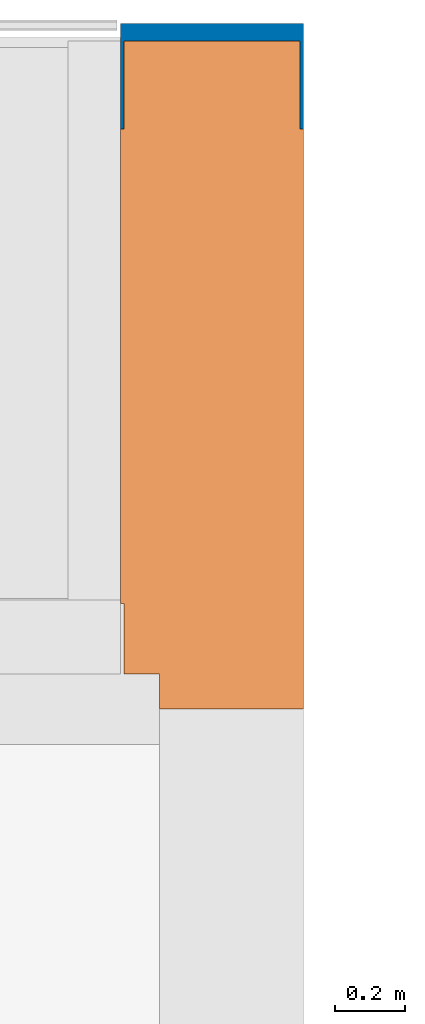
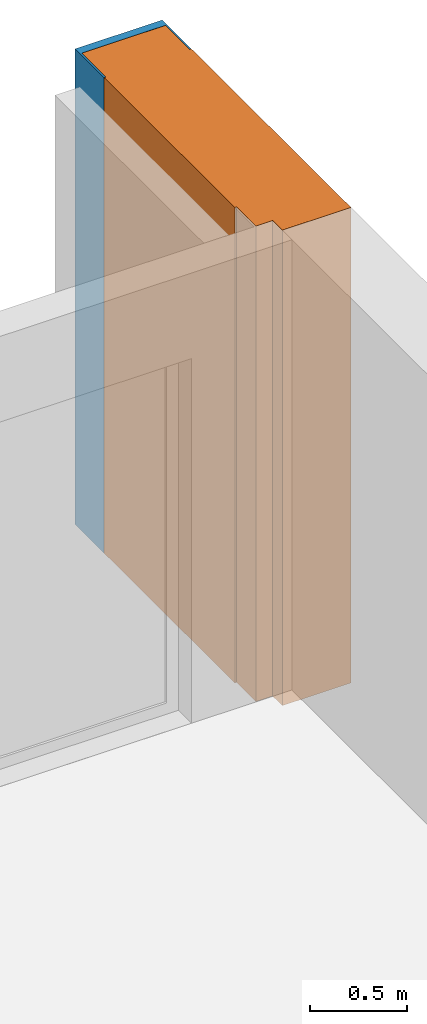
# One storey, part 50 of 64: 1 proxy, 1 wall, 1 opening.
"""IFC2X3 building model written with IfcOpenShell, lengths in millimetres."""

from ifc_helpers import new_model, entity, si_unit, converted_unit, derived_unit, money_unit, direction, frame, origin_with_axes, origin_2d_with_axis, place, context, subcontext, project, spatial, rectangle, extrude, faceted_brep, source, transform, mapped, material, material_list, type_object, element, fill, save


model = new_model("IFC2X3")

# Units and contexts
model_context = context("Model", 3, precision=0.01, world=origin_with_axes(), true_north=direction((0.34421633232, 0.938890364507)))
body_context = subcontext(model_context, "Body", "Model", "MODEL_VIEW")
ifc_project = project(units=[si_unit("LENGTHUNIT", "METRE", prefix="MILLI"), si_unit("AREAUNIT", "SQUARE_METRE"), si_unit("VOLUMEUNIT", "CUBIC_METRE"), converted_unit("PLANEANGLEUNIT", "DEGREE", entity("IfcPlaneAngleMeasure", 0.0174532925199), si_unit("PLANEANGLEUNIT", "RADIAN"), dimensions=[0, 0, 0, 0, 0, 0, 0]), si_unit("SOLIDANGLEUNIT", "STERADIAN"), money_unit("USD"), converted_unit("TIMEUNIT", "Year", entity("IfcTimeMeasure", 31556926.0), si_unit("TIMEUNIT", "SECOND"), dimensions=[0, 0, 1, 0, 0, 0, 0]), si_unit("MASSUNIT", "GRAM", prefix="KILO"), si_unit("THERMODYNAMICTEMPERATUREUNIT", "DEGREE_CELSIUS"), si_unit("LUMINOUSINTENSITYUNIT", "LUMEN"), si_unit("ENERGYUNIT", "JOULE", prefix="MEGA"), derived_unit("THERMALCONDUCTANCEUNIT", [(si_unit("POWERUNIT", "WATT"), 1), (si_unit("LENGTHUNIT", "METRE"), -1), (si_unit("THERMODYNAMICTEMPERATUREUNIT", "KELVIN"), -1)]), derived_unit("SPECIFICHEATCAPACITYUNIT", [(si_unit("ENERGYUNIT", "JOULE"), 1), (si_unit("MASSUNIT", "GRAM", prefix="KILO"), -1), (si_unit("THERMODYNAMICTEMPERATUREUNIT", "KELVIN"), -1)]), derived_unit("MASSDENSITYUNIT", [(si_unit("MASSUNIT", "GRAM", prefix="KILO"), 1), (si_unit("VOLUMEUNIT", "CUBIC_METRE"), -1)])], contexts=[model_context])

# Site, building, storey
site_placement = place(None, origin_with_axes())
site = spatial("IfcSite", under=ifc_project, at=site_placement, Name="USTRONIE MORSKIE", CompositionType="ELEMENT")
building_placement = place(site_placement, origin_with_axes())
building = spatial("IfcBuilding", under=site, at=building_placement, Name="Budynek", CompositionType="ELEMENT")
storey_placement = place(building_placement, frame((0.0, 0.0, 7000.0), z_axis=(0.0, 0.0, 1.0), x_axis=(1.0, 0.0, 0.0)))
storey = spatial("IfcBuildingStorey", under=building, at=storey_placement, Name="PIĘTRO 2", CompositionType="ELEMENT", Elevation=7000.0)

# Proxy, opening, wall
ifc_material_1 = material(Name="Tynk zewnętrzny")
ifc_material_2 = material(Name="Wełna ELEW")
ifc_material_3 = material(Name="Beton konstrukcyjny B25")
ifc_material_list = material_list([ifc_material_1, ifc_material_2, ifc_material_3, ifc_material_2, ifc_material_1])
building_element_proxy_type = type_object("IfcBuildingElementProxyType", Name="BALKON bok 01 520", PredefinedType="NOTDEFINED")
proxy_placement = place(storey_placement, frame((425567.920919, 749451.184717, -160.000002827), z_axis=(0.0, 0.0, 1.0), x_axis=(0.0, 1.0, 0.0)))
proxy = element("IfcBuildingElementProxy", 1, at=proxy_placement, inside=storey, type_object=building_element_proxy_type, material=ifc_material_list, Name="Œciana-006", context=body_context, shape_type="Brep", body=[
    faceted_brep([(300.00017689, 210.0, 3000.00000283), (300.000168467, 200.0, 3000.00000283), (1950.01413776, 200.0, 3000.00000283), (1950.01413776, 210.0, 3000.00000283), (300.000168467, 200.0, 0.0), (300.00017689, 210.0, 1.64313007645e-09), (1950.01413776, 200.0, 0.0), (1950.01413776, 210.0, 0.0)], [[[0, 1, 2, 3]], [[4, 1, 0, 5]], [[1, 4, 6, 2]], [[2, 6, 7, 3]], [[5, 0, 3, 7]], [[4, 5, 7, 6]]]),
    faceted_brep([(100.000168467, 200.0, 3000.00000283), (100.000084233, 100.0, 3000.00000283), (1950.01413776, 100.0, 3000.00000283), (1950.01413776, 200.0, 3000.00000283), (100.000084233, 100.0, 2.68217181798e-06), (100.000168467, 200.0, 2.68292144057e-06), (1950.01413776, 100.0, 0.0), (1950.01413776, 200.0, 0.0)], [[[0, 1, 2, 3]], [[4, 1, 0, 5]], [[1, 4, 6, 2]], [[2, 6, 7, 3]], [[5, 0, 3, 7]], [[4, 5, 7, 6]]]),
    faceted_brep([(0.0, -100.0, 0.0), (0.0, 100.0, 0.0), (1950.01413776, 100.0, 0.0), (1950.01413776, -100.0, 0.0), (0.0, -100.0, 3000.00000283), (0.0, 100.0, 3000.00000283), (1950.01413776, 100.0, 3000.00000283), (1950.01413776, -100.0, 3000.00000283)], [[[0, 1, 2, 3]], [[4, 5, 1, 0]], [[1, 5, 6, 2]], [[7, 3, 2, 6]], [[4, 0, 3, 7]], [[5, 4, 7, 6]]]),
    faceted_brep([(0.0, -100.0, 0.0), (1950.01413776, -100.0, 0.0), (1950.01413776, -300.0, 0.0), (0.0, -300.0, 0.0), (0.0, -100.0, 3000.00000283), (1950.01413776, -100.0, 3000.00000283), (1950.01413776, -300.0, 3000.00000283), (0.0, -300.0, 3000.00000283)], [[[0, 1, 2, 3]], [[4, 5, 1, 0]], [[2, 1, 5, 6]], [[3, 2, 6, 7]], [[4, 0, 3, 7]], [[7, 6, 5, 4]]]),
    faceted_brep([(0.0, -300.0, 0.0), (1950.01413776, -300.0, 0.0), (1950.01413776, -310.0, 0.0), (0.0, -310.0, 0.0), (0.0, -300.0, 3000.00000283), (1950.01413776, -300.0, 3000.00000283), (1950.01413776, -310.0, 3000.00000283), (0.0, -310.0, 3000.00000283)], [[[0, 1, 2, 3]], [[4, 5, 1, 0]], [[2, 1, 5, 6]], [[3, 2, 6, 7]], [[4, 0, 3, 7]], [[7, 6, 5, 4]]]),
])
opening_placement = place(proxy_placement, frame((1950.01413776, 0.0, 0.0), z_axis=(0.0, 0.0, 1.0), x_axis=(1.0, 0.0, 0.0)))
opening = element("IfcOpeningElement", 2, at=opening_placement, cuts=proxy, Name="ZS1", context=body_context, shape_type="SweptSolid", body=[
    extrude(rectangle(XDim=9.99999999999, YDim=50.0000000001, at=origin_2d_with_axis()), frame((-25.0000000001, 205.0, 0.0), z_axis=(0.0, 0.0, 1.0), x_axis=(0.0, -1.0, 0.0)), (0.0, 0.0, 1.0), 3000.00000283),
    extrude(rectangle(XDim=9.99999999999, YDim=250.0, at=origin_2d_with_axis()), frame((-175.0, 205.0, 0.0), z_axis=(0.0, 0.0, 1.0), x_axis=(0.0, -1.0, 0.0)), (0.0, 0.0, 1.0), 3000.00000283),
    extrude(rectangle(XDim=9.99999999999, YDim=50.0, at=origin_2d_with_axis()), frame((-25.0, -305.0, 0.0), z_axis=(0.0, 0.0, 1.0), x_axis=(0.0, -1.0, 0.0)), (0.0, 0.0, 1.0), 3000.00000283),
    extrude(rectangle(XDim=9.99999999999, YDim=250.0, at=origin_2d_with_axis()), frame((-175.0, -305.0, 0.0), z_axis=(0.0, 0.0, 1.0), x_axis=(0.0, -1.0, 0.0)), (0.0, 0.0, 1.0), 3000.00000283),
    extrude(rectangle(XDim=500.0, YDim=50.0000000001, at=origin_2d_with_axis()), frame((-25.0000000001, -50.0, 0.0), z_axis=(0.0, 0.0, 1.0), x_axis=(0.0, -1.0, 0.0)), (0.0, 0.0, 1.0), 3000.00000283),
])
wall_type = type_object("IfcWallType", Name="Zakończenie zamknięte 23", PredefinedType="NOTDEFINED")
shared_shape = source(origin_with_axes(), body_context, "Body", "Brep", [
    faceted_brep([(0.0, 0.0, 0.0), (0.0, -50.0, 0.0), (0.0, -50.0, 3000.00000283), (0.0, 0.0, 3000.00000283), (10.0, 0.0, 0.0), (10.0, -50.0, 0.0), (10.0, -50.0, 3000.00000283), (10.0, 0.0, 3000.00000283)], [[[0, 1, 2, 3]], [[4, 5, 1, 0]], [[5, 6, 2, 1]], [[6, 7, 3, 2]], [[7, 4, 0, 3]], [[4, 7, 6, 5]]]),
    faceted_brep([(0.0, -50.0, 0.0), (0.0, -300.0, 0.0), (0.0, -300.0, 3000.00000283), (0.0, -50.0, 3000.00000283), (10.0, -50.0, 0.0), (10.0, -300.0, 0.0), (10.0, -300.0, 3000.00000283), (10.0, -50.0, 3000.00000283)], [[[0, 1, 2, 3]], [[4, 5, 1, 0]], [[5, 6, 2, 1]], [[6, 7, 3, 2]], [[7, 4, 0, 3]], [[4, 7, 6, 5]]]),
    faceted_brep([(510.0, 0.0, 0.0), (510.0, -50.0, 0.0), (510.0, -50.0, 3000.00000283), (510.0, 0.0, 3000.00000283), (520.0, 0.0, 0.0), (520.0, -50.0, 0.0), (520.0, -50.0, 3000.00000283), (520.0, 0.0, 3000.00000283)], [[[0, 1, 2, 3]], [[4, 5, 1, 0]], [[5, 6, 2, 1]], [[6, 7, 3, 2]], [[7, 4, 0, 3]], [[4, 7, 6, 5]]]),
    faceted_brep([(510.0, -50.0, 0.0), (510.0, -300.0, 0.0), (510.0, -300.0, 3000.00000283), (510.0, -50.0, 3000.00000283), (520.0, -50.0, 0.0), (520.0, -300.0, 0.0), (520.0, -300.0, 3000.00000283), (520.0, -50.0, 3000.00000283)], [[[0, 1, 2, 3]], [[4, 5, 1, 0]], [[5, 6, 2, 1]], [[6, 7, 3, 2]], [[7, 4, 0, 3]], [[4, 7, 6, 5]]]),
    faceted_brep([(10.0, 0.0, 0.0), (10.0, -50.0, 0.0), (10.0, -50.0, 3000.00000283), (10.0, 0.0, 3000.00000283), (510.0, 0.0, 0.0), (510.0, -50.0, 0.0), (510.0, -50.0, 3000.00000283), (510.0, 0.0, 3000.00000283)], [[[0, 1, 2, 3]], [[4, 5, 1, 0]], [[5, 6, 2, 1]], [[6, 7, 3, 2]], [[7, 4, 0, 3]], [[4, 7, 6, 5]]]),
])
wall_placement = place(opening_placement, frame((-150.0, 0.0, 0.0), z_axis=(0.0, 0.0, 1.0), x_axis=(1.0, 0.0, 0.0)))
wall = element("IfcWall", 3, at=wall_placement, inside=storey, type_object=wall_type, material=ifc_material_1, Name="ZS1", context=body_context, shape_type="MappedRepresentation", body=[
    mapped(shared_shape, transform((150.0, 210.0, 0.0), x_axis=(0.0, -1.0, 0.0), y_axis=(1.0, 0.0, 0.0), z_axis=(0.0, 0.0, 1.0))),
])
fill(opening, wall)

save(model, "model.ifc")
